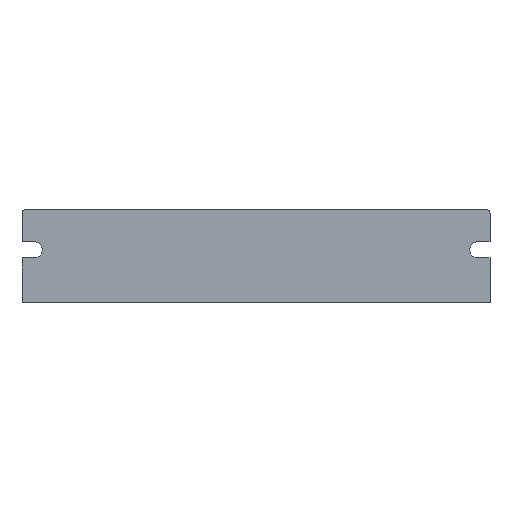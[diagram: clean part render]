
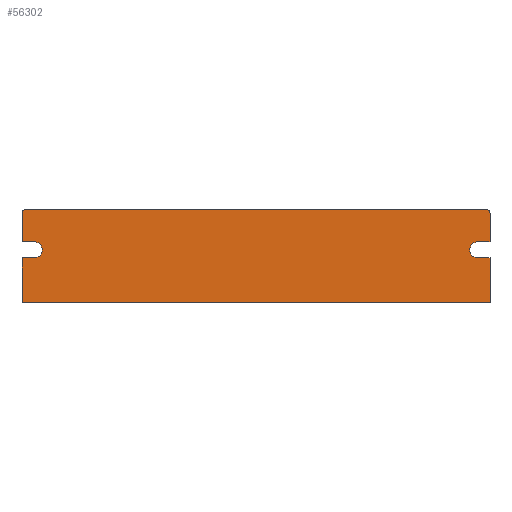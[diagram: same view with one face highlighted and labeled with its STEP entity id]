
A CAD part, front view. The second image highlights one B-rep face of the part: STEP entity #56302.
In plain terms, the highlighted planar face has unit normal (0, -1, 0).
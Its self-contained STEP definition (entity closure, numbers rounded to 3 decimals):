
#330 = EDGE_CURVE ( 'NONE', #27570, #59744, #27706, .T. ) ;
#783 = LINE ( 'NONE', #36327, #43847 ) ;
#1215 = CIRCLE ( 'NONE', #22863, 2.3 ) ;
#1661 = VECTOR ( 'NONE', #50378, 1000. ) ;
#1808 = CARTESIAN_POINT ( 'NONE',  ( 1., 0., 26.5 ) ) ;
#2104 = CARTESIAN_POINT ( 'NONE',  ( 128.2, 0., 15. ) ) ;
#5682 = DIRECTION ( 'NONE',  ( 0., 0., -1. ) ) ;
#5727 = CARTESIAN_POINT ( 'NONE',  ( 130.5, 0., 15. ) ) ;
#6560 = CARTESIAN_POINT ( 'NONE',  ( 134., 0., 17.3 ) ) ;
#6573 = CARTESIAN_POINT ( 'NONE',  ( 3.5, 0., 15. ) ) ;
#7376 = CARTESIAN_POINT ( 'NONE',  ( 134., 0., 26.5 ) ) ;
#7860 = PLANE ( 'NONE',  #49895 ) ;
#7939 = EDGE_CURVE ( 'NONE', #35316, #59978, #43406, .T. ) ;
#8073 = EDGE_CURVE ( 'NONE', #68811, #55122, #66231, .T. ) ;
#8686 = CARTESIAN_POINT ( 'NONE',  ( 3.5, 0., 12.7 ) ) ;
#9281 = LINE ( 'NONE', #8686, #69041 ) ;
#9591 = CARTESIAN_POINT ( 'NONE',  ( 130.5, 0., 17.3 ) ) ;
#10947 = EDGE_CURVE ( 'NONE', #62826, #66945, #783, .T. ) ;
#11368 = DIRECTION ( 'NONE',  ( -1., 0., 0. ) ) ;
#11475 = CARTESIAN_POINT ( 'NONE',  ( 130.5, 0., 12.7 ) ) ;
#11511 = EDGE_CURVE ( 'NONE', #46963, #35316, #39285, .T. ) ;
#12044 = AXIS2_PLACEMENT_3D ( 'NONE', #23444, #62824, #29115 ) ;
#12055 = ORIENTED_EDGE ( 'NONE', *, *, #8073, .F. ) ;
#12186 = DIRECTION ( 'NONE',  ( -1., 0., 0. ) ) ;
#13236 = CARTESIAN_POINT ( 'NONE',  ( 0., 0., 26.5 ) ) ;
#13481 = DIRECTION ( 'NONE',  ( 0., 0., 1. ) ) ;
#14103 = FACE_OUTER_BOUND ( 'NONE', #37495, .T. ) ;
#14738 = EDGE_CURVE ( 'NONE', #27570, #66945, #37132, .T. ) ;
#15034 = EDGE_CURVE ( 'NONE', #32614, #55567, #49471, .T. ) ;
#17905 = DIRECTION ( 'NONE',  ( 1., 0., 0. ) ) ;
#18176 = AXIS2_PLACEMENT_3D ( 'NONE', #32759, #72063, #38419 ) ;
#18262 = ORIENTED_EDGE ( 'NONE', *, *, #14738, .F. ) ;
#18850 = CARTESIAN_POINT ( 'NONE',  ( 134., 0., 12.7 ) ) ;
#19672 = ORIENTED_EDGE ( 'NONE', *, *, #45351, .F. ) ;
#21137 = LINE ( 'NONE', #7376, #47624 ) ;
#21916 = CIRCLE ( 'NONE', #39553, 2.3 ) ;
#22706 = CARTESIAN_POINT ( 'NONE',  ( 0., 0., 0. ) ) ;
#22863 = AXIS2_PLACEMENT_3D ( 'NONE', #6573, #45929, #12186 ) ;
#23317 = CARTESIAN_POINT ( 'NONE',  ( 130.5, 0., 17.3 ) ) ;
#23444 = CARTESIAN_POINT ( 'NONE',  ( 1., 0., 25.5 ) ) ;
#23523 = DIRECTION ( 'NONE',  ( 0., 1., 0. ) ) ;
#25907 = VECTOR ( 'NONE', #5682, 1000. ) ;
#27199 = CARTESIAN_POINT ( 'NONE',  ( 134., 0., 26.5 ) ) ;
#27295 = ORIENTED_EDGE ( 'NONE', *, *, #54933, .T. ) ;
#27570 = VERTEX_POINT ( 'NONE', #45146 ) ;
#27706 = LINE ( 'NONE', #50734, #25907 ) ;
#28254 = CARTESIAN_POINT ( 'NONE',  ( 0., 0., 17.3 ) ) ;
#28466 = CARTESIAN_POINT ( 'NONE',  ( 3.5, 0., 12.7 ) ) ;
#29115 = DIRECTION ( 'NONE',  ( 0., 0., -1. ) ) ;
#29682 = EDGE_CURVE ( 'NONE', #71213, #51786, #9281, .T. ) ;
#29720 = LINE ( 'NONE', #56022, #1661 ) ;
#30127 = ORIENTED_EDGE ( 'NONE', *, *, #59780, .T. ) ;
#30189 = CARTESIAN_POINT ( 'NONE',  ( 134., 0., 25.5 ) ) ;
#30193 = VECTOR ( 'NONE', #66504, 1000. ) ;
#32232 = VECTOR ( 'NONE', #17905, 1000. ) ;
#32614 = VERTEX_POINT ( 'NONE', #11475 ) ;
#32617 = CARTESIAN_POINT ( 'NONE',  ( 133., 0., 26.5 ) ) ;
#32759 = CARTESIAN_POINT ( 'NONE',  ( 130.5, 0., 15. ) ) ;
#33435 = CARTESIAN_POINT ( 'NONE',  ( 3.5, 0., 17.3 ) ) ;
#33607 = DIRECTION ( 'NONE',  ( -1., 0., 0. ) ) ;
#35316 = VERTEX_POINT ( 'NONE', #6560 ) ;
#36327 = CARTESIAN_POINT ( 'NONE',  ( 0., 0., 26.5 ) ) ;
#36736 = VERTEX_POINT ( 'NONE', #18850 ) ;
#37132 = CIRCLE ( 'NONE', #12044, 1. ) ;
#37495 = EDGE_LOOP ( 'NONE', ( #19672, #55219, #18262, #70677, #66679, #27295, #41678, #30127, #12055, #68357, #72851, #55289, #54281, #44286, #65047 ) ) ;
#38419 = DIRECTION ( 'NONE',  ( -1., 0., 0. ) ) ;
#38632 = CARTESIAN_POINT ( 'NONE',  ( 0., 0., 12.7 ) ) ;
#39285 = LINE ( 'NONE', #23317, #32232 ) ;
#39553 = AXIS2_PLACEMENT_3D ( 'NONE', #5727, #45074, #11368 ) ;
#39805 = CARTESIAN_POINT ( 'NONE',  ( 0., 0., 26.5 ) ) ;
#41301 = EDGE_CURVE ( 'NONE', #36736, #32614, #66832, .T. ) ;
#41678 = ORIENTED_EDGE ( 'NONE', *, *, #29682, .T. ) ;
#41886 = CARTESIAN_POINT ( 'NONE',  ( 0., 0., 0. ) ) ;
#42227 = DIRECTION ( 'NONE',  ( -1., 0., 0. ) ) ;
#42989 = VERTEX_POINT ( 'NONE', #33435 ) ;
#43406 = LINE ( 'NONE', #27199, #30193 ) ;
#43847 = VECTOR ( 'NONE', #42227, 1000. ) ;
#44286 = ORIENTED_EDGE ( 'NONE', *, *, #11511, .T. ) ;
#45074 = DIRECTION ( 'NONE',  ( 0., 1., 0. ) ) ;
#45146 = CARTESIAN_POINT ( 'NONE',  ( 0., 0., 25.5 ) ) ;
#45351 = EDGE_CURVE ( 'NONE', #62826, #59978, #72256, .T. ) ;
#45929 = DIRECTION ( 'NONE',  ( 0., 1., 0. ) ) ;
#46963 = VERTEX_POINT ( 'NONE', #9591 ) ;
#47243 = DIRECTION ( 'NONE',  ( 0., 1., 0. ) ) ;
#47624 = VECTOR ( 'NONE', #52427, 1000. ) ;
#49471 = CIRCLE ( 'NONE', #18176, 2.3 ) ;
#49895 = AXIS2_PLACEMENT_3D ( 'NONE', #13236, #47243, #13481 ) ;
#50116 = EDGE_CURVE ( 'NONE', #55567, #46963, #21916, .T. ) ;
#50210 = VECTOR ( 'NONE', #33607, 1000. ) ;
#50378 = DIRECTION ( 'NONE',  ( 1., 0., 0. ) ) ;
#50424 = CARTESIAN_POINT ( 'NONE',  ( 130.5, 0., 12.7 ) ) ;
#50734 = CARTESIAN_POINT ( 'NONE',  ( 0., 0., 26.5 ) ) ;
#51162 = AXIS2_PLACEMENT_3D ( 'NONE', #57290, #23523, #62908 ) ;
#51786 = VERTEX_POINT ( 'NONE', #38632 ) ;
#52427 = DIRECTION ( 'NONE',  ( 0., 0., 1. ) ) ;
#54281 = ORIENTED_EDGE ( 'NONE', *, *, #50116, .T. ) ;
#54933 = EDGE_CURVE ( 'NONE', #42989, #71213, #1215, .T. ) ;
#55122 = VERTEX_POINT ( 'NONE', #41886 ) ;
#55219 = ORIENTED_EDGE ( 'NONE', *, *, #10947, .T. ) ;
#55289 = ORIENTED_EDGE ( 'NONE', *, *, #15034, .T. ) ;
#55567 = VERTEX_POINT ( 'NONE', #2104 ) ;
#56022 = CARTESIAN_POINT ( 'NONE',  ( 0., 0., 17.3 ) ) ;
#56237 = EDGE_CURVE ( 'NONE', #68811, #36736, #21137, .T. ) ;
#56240 = DIRECTION ( 'NONE',  ( -1., 0., 0. ) ) ;
#56302 = ADVANCED_FACE ( 'NONE', ( #14103 ), #7860, .F. ) ;
#57290 = CARTESIAN_POINT ( 'NONE',  ( 133., 0., 25.5 ) ) ;
#58495 = EDGE_CURVE ( 'NONE', #59744, #42989, #29720, .T. ) ;
#59473 = LINE ( 'NONE', #39805, #72558 ) ;
#59744 = VERTEX_POINT ( 'NONE', #28254 ) ;
#59780 = EDGE_CURVE ( 'NONE', #51786, #55122, #59473, .T. ) ;
#59978 = VERTEX_POINT ( 'NONE', #30189 ) ;
#60254 = CARTESIAN_POINT ( 'NONE',  ( 134., 0., 0. ) ) ;
#62824 = DIRECTION ( 'NONE',  ( 0., 1., 0. ) ) ;
#62826 = VERTEX_POINT ( 'NONE', #32617 ) ;
#62908 = DIRECTION ( 'NONE',  ( 0., 0., 1. ) ) ;
#64500 = VECTOR ( 'NONE', #56240, 1000. ) ;
#64979 = DIRECTION ( 'NONE',  ( -1., 0., 0. ) ) ;
#65047 = ORIENTED_EDGE ( 'NONE', *, *, #7939, .T. ) ;
#66231 = LINE ( 'NONE', #22706, #64500 ) ;
#66504 = DIRECTION ( 'NONE',  ( 0., 0., 1. ) ) ;
#66679 = ORIENTED_EDGE ( 'NONE', *, *, #58495, .T. ) ;
#66832 = LINE ( 'NONE', #50424, #50210 ) ;
#66945 = VERTEX_POINT ( 'NONE', #1808 ) ;
#67805 = DIRECTION ( 'NONE',  ( 0., 0., -1. ) ) ;
#68357 = ORIENTED_EDGE ( 'NONE', *, *, #56237, .T. ) ;
#68811 = VERTEX_POINT ( 'NONE', #60254 ) ;
#69041 = VECTOR ( 'NONE', #64979, 1000. ) ;
#70677 = ORIENTED_EDGE ( 'NONE', *, *, #330, .T. ) ;
#71213 = VERTEX_POINT ( 'NONE', #28466 ) ;
#72063 = DIRECTION ( 'NONE',  ( 0., 1., 0. ) ) ;
#72256 = CIRCLE ( 'NONE', #51162, 1. ) ;
#72558 = VECTOR ( 'NONE', #67805, 1000. ) ;
#72851 = ORIENTED_EDGE ( 'NONE', *, *, #41301, .T. ) ;
